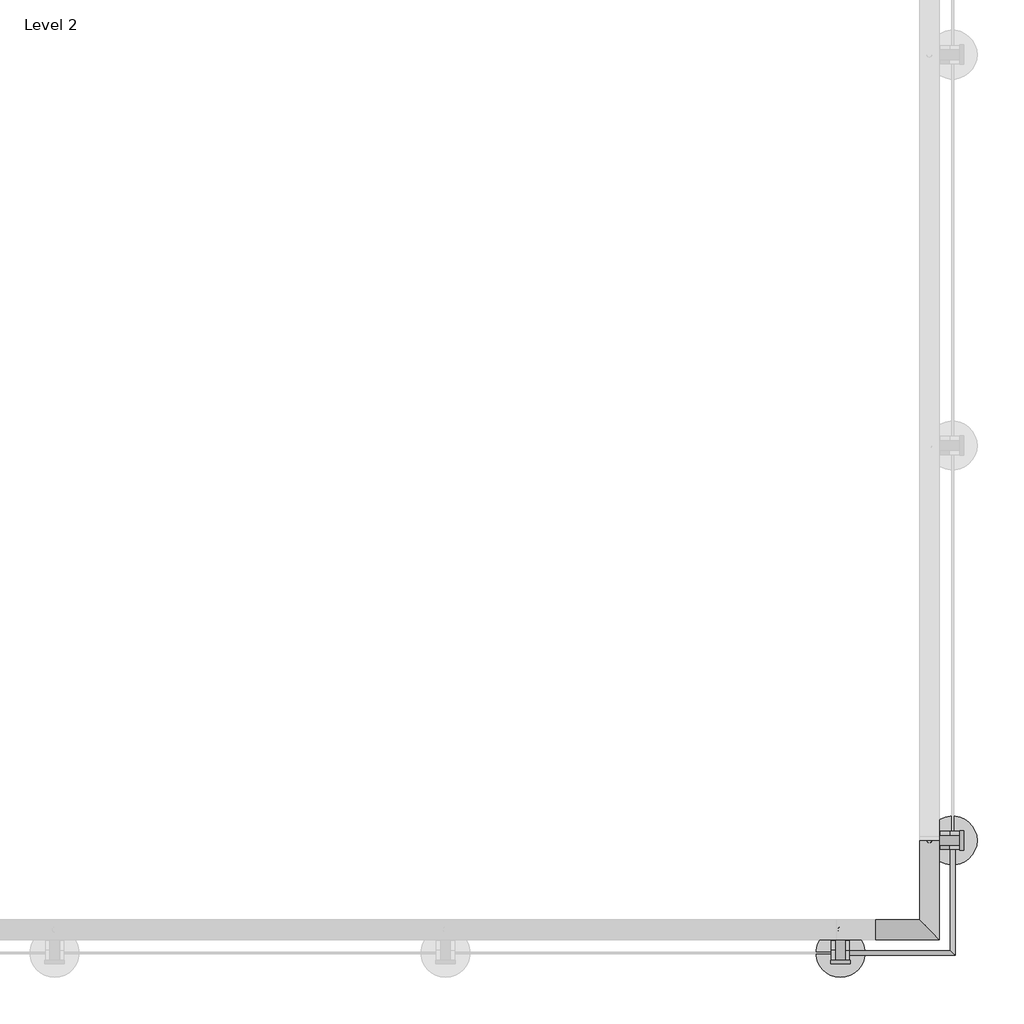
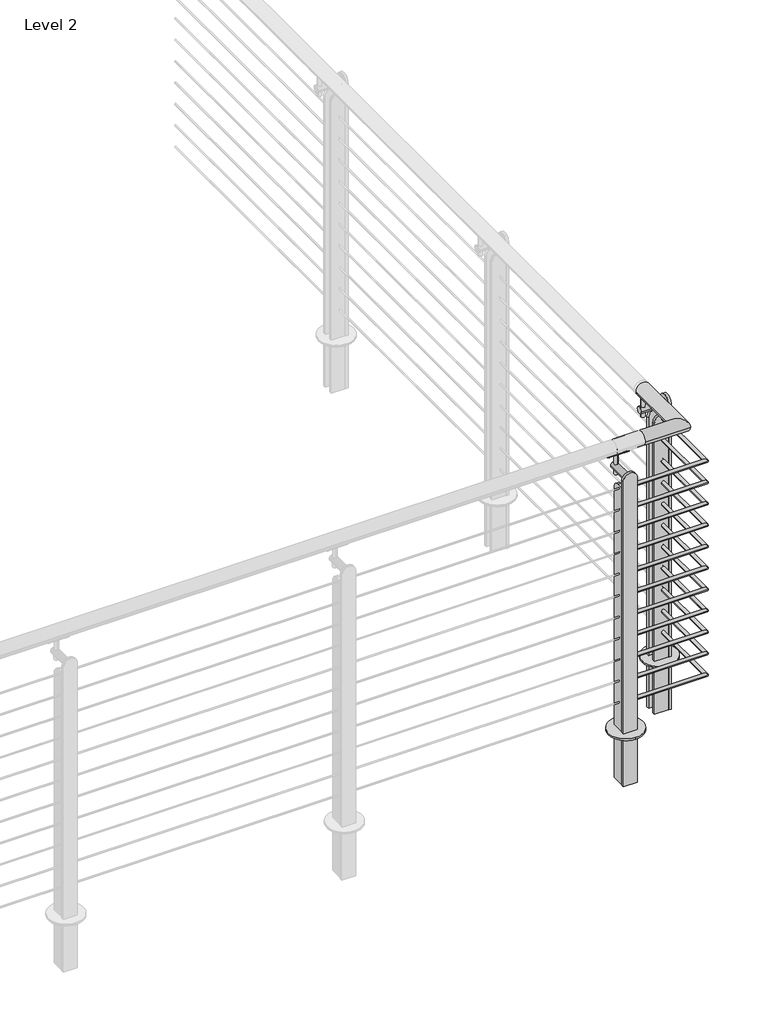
# One storey, part 8 of 12: 1 railing.
"""IFC4 building model written with IfcOpenShell, lengths in millimetres."""

from ifc_helpers import new_model, si_unit, point, frame, frame_2d, origin, place, context, project, spatial, polyline, circle_curve, ellipse_curve, trimmed, segment, composite_curve, outline, extrude, element, save
from ifc_brep_helpers import plane_surface, cylinder_surface, advanced_brep

model = new_model("IFC4")

# Units and contexts
model_context = context("Model", 3, world=origin())
ifc_project = project(units=[si_unit("LENGTHUNIT", "METRE", prefix="MILLI")], contexts=[model_context])

# Site, building, storey
site = spatial("IfcSite", under=ifc_project)
building = spatial("IfcBuilding", under=site)
storey = spatial("IfcBuildingStorey", under=building, Name="Level 2", Elevation=3048.0)

# Railing
placement = place(None, origin())
element("IfcRailing", 1, ObjectType="VIVA-TEE-Cable-Core Mount-Corner", at=placement, inside=storey, context=model_context, shape_type="SolidModel", body=[
    advanced_brep(
    [(-4030.6997163, -18186.2176165, 4102.1), (-4030.6997163, -18237.0176165, 4102.1), (-3773.5247163, -18237.0176165, 4102.1), (-3824.3247163, -18186.2176165, 4102.1), (-4041.1313409, -18237.0176165, 4102.1), (-4041.1313409, -18186.2176165, 4102.1), (-3773.5247163, -17979.8426165, 4102.1), (-3824.3247163, -17979.8426165, 4102.1)],
    [
        (0, 1, circle_curve(frame((-4030.6997163, -18211.6176165, 4102.1), z_axis=(1.0, 0.0, 0.0), x_axis=(0.0, 1.0, 0.0)), 25.4)),
        (1, 2),
        (2, 3, ellipse_curve(frame((-3798.9247163, -18211.6176165, 4102.1), z_axis=(-0.7071067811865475, -0.7071067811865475, 0.0), x_axis=(-0.7071067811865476, 0.7071067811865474, 0.0)), 35.9210245, 25.4)),
        (3, 0),
        (1, 0, circle_curve(frame((-4030.6997163, -18211.6176165, 4102.1), z_axis=(1.0, 0.0, 0.0), x_axis=(0.0, 1.0, 0.0)), 25.4)),
        (3, 2, ellipse_curve(frame((-3798.9247163, -18211.6176165, 4102.1), z_axis=(-0.7071067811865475, -0.7071067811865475, 0.0), x_axis=(-0.7071067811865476, 0.7071067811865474, 0.0)), 35.9210245, 25.4)),
        (4, 5, circle_curve(frame((-4041.1313409, -18211.6176165, 4102.1), z_axis=(-1.0, 0.0, 0.0), x_axis=(0.0, 1.0, 0.0)), 25.4)),
        (5, 4, circle_curve(frame((-4041.1313409, -18211.6176165, 4102.1), z_axis=(-1.0, 0.0, 0.0), x_axis=(0.0, 1.0, 0.0)), 25.4)),
        (4, 1),
        (0, 5),
        (6, 7, circle_curve(frame((-3798.9247163, -17979.8426165, 4102.1), z_axis=(0.0, 1.0, 0.0), x_axis=(-1.0, 0.0, 0.0)), 25.4)),
        (7, 6, circle_curve(frame((-3798.9247163, -17979.8426165, 4102.1), z_axis=(0.0, 1.0, 0.0), x_axis=(-1.0, 0.0, 0.0)), 25.4)),
        (2, 6),
        (7, 3),
    ],
    [
        cylinder_surface(frame((-4030.6997163, -18211.6176165, 4102.1), z_axis=(-1.0, 0.0, 0.0), x_axis=(0.0, 1.0, 0.0)), 25.4),
        plane_surface(frame((-4041.1313409, -18211.6176165, 4127.5), z_axis=(-1.0, 0.0, 0.0), x_axis=(0.0, 1.0, 0.0))),
        cylinder_surface(frame((-4041.1313409, -18211.6176165, 4102.1), z_axis=(-1.0, 0.0, 0.0), x_axis=(0.0, 1.0, 0.0)), 25.4),
        plane_surface(frame((-3798.9247163, -17979.8426165, 4127.5), z_axis=(0.0, 1.0, 0.0), x_axis=(0.0, 0.0, 1.0))),
        cylinder_surface(frame((-3798.9247163, -18211.6176165, 4102.1), z_axis=(0.0, -1.0, 0.0), x_axis=(-1.0, 0.0, 0.0)), 25.4),
    ],
    [
        (0, [[1, 2, 3, 4]]),
        (0, [[5, -4, 6, -2]]),
        (1, [[7, 8]]),
        (2, [[-7, 9, -1, 10]]),
        (2, [[-8, -10, -5, -9]]),
        (3, [[11, 12]]),
        (4, [[-3, 13, -12, 14]]),
        (4, [[-6, -14, -11, -13]]),
    ],
),
    advanced_brep(
    [(-4030.6997163, -18265.5926165, 3981.45), (-4030.6997163, -18278.2926165, 3981.45), (-3744.9497163, -18265.5926165, 3981.45), (-3732.2497163, -18278.2926165, 3981.45), (-3744.9497163, -17979.8426165, 3981.45), (-3732.2497163, -17979.8426165, 3981.45)],
    [
        (0, 1, circle_curve(frame((-4030.6997163, -18271.9426165, 3981.45), z_axis=(-1.0, 0.0, 0.0), x_axis=(0.0, -1.0, 0.0)), 6.35)),
        (1, 0, circle_curve(frame((-4030.6997163, -18271.9426165, 3981.45), z_axis=(-1.0, 0.0, 0.0), x_axis=(0.0, -1.0, 0.0)), 6.35)),
        (0, 2),
        (2, 3, ellipse_curve(frame((-3738.5997163, -18271.9426165, 3981.45), z_axis=(-0.7071067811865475, -0.7071067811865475, 0.0), x_axis=(-0.7071067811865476, 0.7071067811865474, 0.0)), 8.9802561, 6.35)),
        (3, 1),
        (3, 2, ellipse_curve(frame((-3738.5997163, -18271.9426165, 3981.45), z_axis=(-0.7071067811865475, -0.7071067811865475, 0.0), x_axis=(-0.7071067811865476, 0.7071067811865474, 0.0)), 8.9802561, 6.35)),
        (4, 5, circle_curve(frame((-3738.5997163, -17979.8426165, 3981.45), z_axis=(0.0, 1.0, 0.0), x_axis=(1.0, 0.0, 0.0)), 6.35)),
        (5, 4, circle_curve(frame((-3738.5997163, -17979.8426165, 3981.45), z_axis=(0.0, 1.0, 0.0), x_axis=(1.0, 0.0, 0.0)), 6.35)),
        (2, 4),
        (5, 3),
    ],
    [
        plane_surface(frame((-4030.6997163, -18271.9426165, 3987.8), z_axis=(-1.0, 0.0, 0.0), x_axis=(0.0, 1.0, 0.0))),
        cylinder_surface(frame((-4030.6997163, -18271.9426165, 3981.45), z_axis=(-1.0, 0.0, 0.0), x_axis=(0.0, -1.0, 0.0)), 6.35),
        plane_surface(frame((-3738.5997163, -17979.8426165, 3987.8), z_axis=(0.0, 1.0, 0.0), x_axis=(0.0, 0.0, 1.0))),
        cylinder_surface(frame((-3738.5997163, -18271.9426165, 3981.45), z_axis=(0.0, -1.0, 0.0), x_axis=(1.0, 0.0, 0.0)), 6.35),
    ],
    [
        (0, [[1, 2]]),
        (1, [[-1, 3, 4, 5]]),
        (1, [[-2, -5, 6, -3]]),
        (2, [[7, 8]]),
        (3, [[-4, 9, -8, 10]]),
        (3, [[-6, -10, -7, -9]]),
    ],
),
    advanced_brep(
    [(-4030.6997163, -18265.5926165, 3898.9), (-4030.6997163, -18278.2926165, 3898.9), (-3744.9497163, -18265.5926165, 3898.9), (-3732.2497163, -18278.2926165, 3898.9), (-3744.9497163, -17979.8426165, 3898.9), (-3732.2497163, -17979.8426165, 3898.9)],
    [
        (0, 1, circle_curve(frame((-4030.6997163, -18271.9426165, 3898.9), z_axis=(-1.0, 0.0, 0.0), x_axis=(0.0, -1.0, 0.0)), 6.35)),
        (1, 0, circle_curve(frame((-4030.6997163, -18271.9426165, 3898.9), z_axis=(-1.0, 0.0, 0.0), x_axis=(0.0, -1.0, 0.0)), 6.35)),
        (0, 2),
        (2, 3, ellipse_curve(frame((-3738.5997163, -18271.9426165, 3898.9), z_axis=(-0.7071067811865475, -0.7071067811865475, 0.0), x_axis=(-0.7071067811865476, 0.7071067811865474, 0.0)), 8.9802561, 6.35)),
        (3, 1),
        (3, 2, ellipse_curve(frame((-3738.5997163, -18271.9426165, 3898.9), z_axis=(-0.7071067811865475, -0.7071067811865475, 0.0), x_axis=(-0.7071067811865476, 0.7071067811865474, 0.0)), 8.9802561, 6.35)),
        (4, 5, circle_curve(frame((-3738.5997163, -17979.8426165, 3898.9), z_axis=(0.0, 1.0, 0.0), x_axis=(1.0, 0.0, 0.0)), 6.35)),
        (5, 4, circle_curve(frame((-3738.5997163, -17979.8426165, 3898.9), z_axis=(0.0, 1.0, 0.0), x_axis=(1.0, 0.0, 0.0)), 6.35)),
        (2, 4),
        (5, 3),
    ],
    [
        plane_surface(frame((-4030.6997163, -18271.9426165, 3905.25), z_axis=(-1.0, 0.0, 0.0), x_axis=(0.0, 1.0, 0.0))),
        cylinder_surface(frame((-4030.6997163, -18271.9426165, 3898.9), z_axis=(-1.0, 0.0, 0.0), x_axis=(0.0, -1.0, 0.0)), 6.35),
        plane_surface(frame((-3738.5997163, -17979.8426165, 3905.25), z_axis=(0.0, 1.0, 0.0), x_axis=(0.0, 0.0, 1.0))),
        cylinder_surface(frame((-3738.5997163, -18271.9426165, 3898.9), z_axis=(0.0, -1.0, 0.0), x_axis=(1.0, 0.0, 0.0)), 6.35),
    ],
    [
        (0, [[1, 2]]),
        (1, [[-1, 3, 4, 5]]),
        (1, [[-2, -5, 6, -3]]),
        (2, [[7, 8]]),
        (3, [[-4, 9, -8, 10]]),
        (3, [[-6, -10, -7, -9]]),
    ],
),
    advanced_brep(
    [(-4030.6997163, -18265.5926165, 3816.35), (-4030.6997163, -18278.2926165, 3816.35), (-3744.9497163, -18265.5926165, 3816.35), (-3732.2497163, -18278.2926165, 3816.35), (-3744.9497163, -17979.8426165, 3816.35), (-3732.2497163, -17979.8426165, 3816.35)],
    [
        (0, 1, circle_curve(frame((-4030.6997163, -18271.9426165, 3816.35), z_axis=(-1.0, 0.0, 0.0), x_axis=(0.0, -1.0, 0.0)), 6.35)),
        (1, 0, circle_curve(frame((-4030.6997163, -18271.9426165, 3816.35), z_axis=(-1.0, 0.0, 0.0), x_axis=(0.0, -1.0, 0.0)), 6.35)),
        (0, 2),
        (2, 3, ellipse_curve(frame((-3738.5997163, -18271.9426165, 3816.35), z_axis=(-0.7071067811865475, -0.7071067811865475, 0.0), x_axis=(-0.7071067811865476, 0.7071067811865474, 0.0)), 8.9802561, 6.35)),
        (3, 1),
        (3, 2, ellipse_curve(frame((-3738.5997163, -18271.9426165, 3816.35), z_axis=(-0.7071067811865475, -0.7071067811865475, 0.0), x_axis=(-0.7071067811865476, 0.7071067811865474, 0.0)), 8.9802561, 6.35)),
        (4, 5, circle_curve(frame((-3738.5997163, -17979.8426165, 3816.35), z_axis=(0.0, 1.0, 0.0), x_axis=(1.0, 0.0, 0.0)), 6.35)),
        (5, 4, circle_curve(frame((-3738.5997163, -17979.8426165, 3816.35), z_axis=(0.0, 1.0, 0.0), x_axis=(1.0, 0.0, 0.0)), 6.35)),
        (2, 4),
        (5, 3),
    ],
    [
        plane_surface(frame((-4030.6997163, -18271.9426165, 3822.7), z_axis=(-1.0, 0.0, 0.0), x_axis=(0.0, 1.0, 0.0))),
        cylinder_surface(frame((-4030.6997163, -18271.9426165, 3816.35), z_axis=(-1.0, 0.0, 0.0), x_axis=(0.0, -1.0, 0.0)), 6.35),
        plane_surface(frame((-3738.5997163, -17979.8426165, 3822.7), z_axis=(0.0, 1.0, 0.0), x_axis=(0.0, 0.0, 1.0))),
        cylinder_surface(frame((-3738.5997163, -18271.9426165, 3816.35), z_axis=(0.0, -1.0, 0.0), x_axis=(1.0, 0.0, 0.0)), 6.35),
    ],
    [
        (0, [[1, 2]]),
        (1, [[-1, 3, 4, 5]]),
        (1, [[-2, -5, 6, -3]]),
        (2, [[7, 8]]),
        (3, [[-4, 9, -8, 10]]),
        (3, [[-6, -10, -7, -9]]),
    ],
),
    advanced_brep(
    [(-4030.6997163, -18265.5926165, 3733.8), (-4030.6997163, -18278.2926165, 3733.8), (-3744.9497163, -18265.5926165, 3733.8), (-3732.2497163, -18278.2926165, 3733.8), (-3744.9497163, -17979.8426165, 3733.8), (-3732.2497163, -17979.8426165, 3733.8)],
    [
        (0, 1, circle_curve(frame((-4030.6997163, -18271.9426165, 3733.8), z_axis=(-1.0, 0.0, 0.0), x_axis=(0.0, -1.0, 0.0)), 6.35)),
        (1, 0, circle_curve(frame((-4030.6997163, -18271.9426165, 3733.8), z_axis=(-1.0, 0.0, 0.0), x_axis=(0.0, -1.0, 0.0)), 6.35)),
        (0, 2),
        (2, 3, ellipse_curve(frame((-3738.5997163, -18271.9426165, 3733.8), z_axis=(-0.7071067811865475, -0.7071067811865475, 0.0), x_axis=(-0.7071067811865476, 0.7071067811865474, 0.0)), 8.9802561, 6.35)),
        (3, 1),
        (3, 2, ellipse_curve(frame((-3738.5997163, -18271.9426165, 3733.8), z_axis=(-0.7071067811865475, -0.7071067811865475, 0.0), x_axis=(-0.7071067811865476, 0.7071067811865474, 0.0)), 8.9802561, 6.35)),
        (4, 5, circle_curve(frame((-3738.5997163, -17979.8426165, 3733.8), z_axis=(0.0, 1.0, 0.0), x_axis=(1.0, 0.0, 0.0)), 6.35)),
        (5, 4, circle_curve(frame((-3738.5997163, -17979.8426165, 3733.8), z_axis=(0.0, 1.0, 0.0), x_axis=(1.0, 0.0, 0.0)), 6.35)),
        (2, 4),
        (5, 3),
    ],
    [
        plane_surface(frame((-4030.6997163, -18271.9426165, 3740.15), z_axis=(-1.0, 0.0, 0.0), x_axis=(0.0, 1.0, 0.0))),
        cylinder_surface(frame((-4030.6997163, -18271.9426165, 3733.8), z_axis=(-1.0, 0.0, 0.0), x_axis=(0.0, -1.0, 0.0)), 6.35),
        plane_surface(frame((-3738.5997163, -17979.8426165, 3740.15), z_axis=(0.0, 1.0, 0.0), x_axis=(0.0, 0.0, 1.0))),
        cylinder_surface(frame((-3738.5997163, -18271.9426165, 3733.8), z_axis=(0.0, -1.0, 0.0), x_axis=(1.0, 0.0, 0.0)), 6.35),
    ],
    [
        (0, [[1, 2]]),
        (1, [[-1, 3, 4, 5]]),
        (1, [[-2, -5, 6, -3]]),
        (2, [[7, 8]]),
        (3, [[-4, 9, -8, 10]]),
        (3, [[-6, -10, -7, -9]]),
    ],
),
    advanced_brep(
    [(-4030.6997163, -18265.5926165, 3651.25), (-4030.6997163, -18278.2926165, 3651.25), (-3744.9497163, -18265.5926165, 3651.25), (-3732.2497163, -18278.2926165, 3651.25), (-3744.9497163, -17979.8426165, 3651.25), (-3732.2497163, -17979.8426165, 3651.25)],
    [
        (0, 1, circle_curve(frame((-4030.6997163, -18271.9426165, 3651.25), z_axis=(-1.0, 0.0, 0.0), x_axis=(0.0, -1.0, 0.0)), 6.35)),
        (1, 0, circle_curve(frame((-4030.6997163, -18271.9426165, 3651.25), z_axis=(-1.0, 0.0, 0.0), x_axis=(0.0, -1.0, 0.0)), 6.35)),
        (0, 2),
        (2, 3, ellipse_curve(frame((-3738.5997163, -18271.9426165, 3651.25), z_axis=(-0.7071067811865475, -0.7071067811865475, 0.0), x_axis=(-0.7071067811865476, 0.7071067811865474, 0.0)), 8.9802561, 6.35)),
        (3, 1),
        (3, 2, ellipse_curve(frame((-3738.5997163, -18271.9426165, 3651.25), z_axis=(-0.7071067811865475, -0.7071067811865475, 0.0), x_axis=(-0.7071067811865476, 0.7071067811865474, 0.0)), 8.9802561, 6.35)),
        (4, 5, circle_curve(frame((-3738.5997163, -17979.8426165, 3651.25), z_axis=(0.0, 1.0, 0.0), x_axis=(1.0, 0.0, 0.0)), 6.35)),
        (5, 4, circle_curve(frame((-3738.5997163, -17979.8426165, 3651.25), z_axis=(0.0, 1.0, 0.0), x_axis=(1.0, 0.0, 0.0)), 6.35)),
        (2, 4),
        (5, 3),
    ],
    [
        plane_surface(frame((-4030.6997163, -18271.9426165, 3657.6), z_axis=(-1.0, 0.0, 0.0), x_axis=(0.0, 1.0, 0.0))),
        cylinder_surface(frame((-4030.6997163, -18271.9426165, 3651.25), z_axis=(-1.0, 0.0, 0.0), x_axis=(0.0, -1.0, 0.0)), 6.35),
        plane_surface(frame((-3738.5997163, -17979.8426165, 3657.6), z_axis=(0.0, 1.0, 0.0), x_axis=(0.0, 0.0, 1.0))),
        cylinder_surface(frame((-3738.5997163, -18271.9426165, 3651.25), z_axis=(0.0, -1.0, 0.0), x_axis=(1.0, 0.0, 0.0)), 6.35),
    ],
    [
        (0, [[1, 2]]),
        (1, [[-1, 3, 4, 5]]),
        (1, [[-2, -5, 6, -3]]),
        (2, [[7, 8]]),
        (3, [[-4, 9, -8, 10]]),
        (3, [[-6, -10, -7, -9]]),
    ],
),
    advanced_brep(
    [(-4030.6997163, -18265.5926165, 3568.7), (-4030.6997163, -18278.2926165, 3568.7), (-3744.9497163, -18265.5926165, 3568.7), (-3732.2497163, -18278.2926165, 3568.7), (-3744.9497163, -17979.8426165, 3568.7), (-3732.2497163, -17979.8426165, 3568.7)],
    [
        (0, 1, circle_curve(frame((-4030.6997163, -18271.9426165, 3568.7), z_axis=(-1.0, 0.0, 0.0), x_axis=(0.0, -1.0, 0.0)), 6.35)),
        (1, 0, circle_curve(frame((-4030.6997163, -18271.9426165, 3568.7), z_axis=(-1.0, 0.0, 0.0), x_axis=(0.0, -1.0, 0.0)), 6.35)),
        (0, 2),
        (2, 3, ellipse_curve(frame((-3738.5997163, -18271.9426165, 3568.7), z_axis=(-0.7071067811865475, -0.7071067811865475, 0.0), x_axis=(-0.7071067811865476, 0.7071067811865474, 0.0)), 8.9802561, 6.35)),
        (3, 1),
        (3, 2, ellipse_curve(frame((-3738.5997163, -18271.9426165, 3568.7), z_axis=(-0.7071067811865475, -0.7071067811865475, 0.0), x_axis=(-0.7071067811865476, 0.7071067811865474, 0.0)), 8.9802561, 6.35)),
        (4, 5, circle_curve(frame((-3738.5997163, -17979.8426165, 3568.7), z_axis=(0.0, 1.0, 0.0), x_axis=(1.0, 0.0, 0.0)), 6.35)),
        (5, 4, circle_curve(frame((-3738.5997163, -17979.8426165, 3568.7), z_axis=(0.0, 1.0, 0.0), x_axis=(1.0, 0.0, 0.0)), 6.35)),
        (2, 4),
        (5, 3),
    ],
    [
        plane_surface(frame((-4030.6997163, -18271.9426165, 3575.05), z_axis=(-1.0, 0.0, 0.0), x_axis=(0.0, 1.0, 0.0))),
        cylinder_surface(frame((-4030.6997163, -18271.9426165, 3568.7), z_axis=(-1.0, 0.0, 0.0), x_axis=(0.0, -1.0, 0.0)), 6.35),
        plane_surface(frame((-3738.5997163, -17979.8426165, 3575.05), z_axis=(0.0, 1.0, 0.0), x_axis=(0.0, 0.0, 1.0))),
        cylinder_surface(frame((-3738.5997163, -18271.9426165, 3568.7), z_axis=(0.0, -1.0, 0.0), x_axis=(1.0, 0.0, 0.0)), 6.35),
    ],
    [
        (0, [[1, 2]]),
        (1, [[-1, 3, 4, 5]]),
        (1, [[-2, -5, 6, -3]]),
        (2, [[7, 8]]),
        (3, [[-4, 9, -8, 10]]),
        (3, [[-6, -10, -7, -9]]),
    ],
),
    advanced_brep(
    [(-4030.6997163, -18265.5926165, 3486.15), (-4030.6997163, -18278.2926165, 3486.15), (-3744.9497163, -18265.5926165, 3486.15), (-3732.2497163, -18278.2926165, 3486.15), (-3744.9497163, -17979.8426165, 3486.15), (-3732.2497163, -17979.8426165, 3486.15)],
    [
        (0, 1, circle_curve(frame((-4030.6997163, -18271.9426165, 3486.15), z_axis=(-1.0, 0.0, 0.0), x_axis=(0.0, -1.0, 0.0)), 6.35)),
        (1, 0, circle_curve(frame((-4030.6997163, -18271.9426165, 3486.15), z_axis=(-1.0, 0.0, 0.0), x_axis=(0.0, -1.0, 0.0)), 6.35)),
        (0, 2),
        (2, 3, ellipse_curve(frame((-3738.5997163, -18271.9426165, 3486.15), z_axis=(-0.7071067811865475, -0.7071067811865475, 0.0), x_axis=(-0.7071067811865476, 0.7071067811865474, 0.0)), 8.9802561, 6.35)),
        (3, 1),
        (3, 2, ellipse_curve(frame((-3738.5997163, -18271.9426165, 3486.15), z_axis=(-0.7071067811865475, -0.7071067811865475, 0.0), x_axis=(-0.7071067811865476, 0.7071067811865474, 0.0)), 8.9802561, 6.35)),
        (4, 5, circle_curve(frame((-3738.5997163, -17979.8426165, 3486.15), z_axis=(0.0, 1.0, 0.0), x_axis=(1.0, 0.0, 0.0)), 6.35)),
        (5, 4, circle_curve(frame((-3738.5997163, -17979.8426165, 3486.15), z_axis=(0.0, 1.0, 0.0), x_axis=(1.0, 0.0, 0.0)), 6.35)),
        (2, 4),
        (5, 3),
    ],
    [
        plane_surface(frame((-4030.6997163, -18271.9426165, 3492.5), z_axis=(-1.0, 0.0, 0.0), x_axis=(0.0, 1.0, 0.0))),
        cylinder_surface(frame((-4030.6997163, -18271.9426165, 3486.15), z_axis=(-1.0, 0.0, 0.0), x_axis=(0.0, -1.0, 0.0)), 6.35),
        plane_surface(frame((-3738.5997163, -17979.8426165, 3492.5), z_axis=(0.0, 1.0, 0.0), x_axis=(0.0, 0.0, 1.0))),
        cylinder_surface(frame((-3738.5997163, -18271.9426165, 3486.15), z_axis=(0.0, -1.0, 0.0), x_axis=(1.0, 0.0, 0.0)), 6.35),
    ],
    [
        (0, [[1, 2]]),
        (1, [[-1, 3, 4, 5]]),
        (1, [[-2, -5, 6, -3]]),
        (2, [[7, 8]]),
        (3, [[-4, 9, -8, 10]]),
        (3, [[-6, -10, -7, -9]]),
    ],
),
    advanced_brep(
    [(-4030.6997163, -18265.5926165, 3403.6), (-4030.6997163, -18278.2926165, 3403.6), (-3744.9497163, -18265.5926165, 3403.6), (-3732.2497163, -18278.2926165, 3403.6), (-3744.9497163, -17979.8426165, 3403.6), (-3732.2497163, -17979.8426165, 3403.6)],
    [
        (0, 1, circle_curve(frame((-4030.6997163, -18271.9426165, 3403.6), z_axis=(-1.0, 0.0, 0.0), x_axis=(0.0, -1.0, 0.0)), 6.35)),
        (1, 0, circle_curve(frame((-4030.6997163, -18271.9426165, 3403.6), z_axis=(-1.0, 0.0, 0.0), x_axis=(0.0, -1.0, 0.0)), 6.35)),
        (0, 2),
        (2, 3, ellipse_curve(frame((-3738.5997163, -18271.9426165, 3403.6), z_axis=(-0.7071067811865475, -0.7071067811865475, 0.0), x_axis=(-0.7071067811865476, 0.7071067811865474, 0.0)), 8.9802561, 6.35)),
        (3, 1),
        (3, 2, ellipse_curve(frame((-3738.5997163, -18271.9426165, 3403.6), z_axis=(-0.7071067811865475, -0.7071067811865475, 0.0), x_axis=(-0.7071067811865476, 0.7071067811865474, 0.0)), 8.9802561, 6.35)),
        (4, 5, circle_curve(frame((-3738.5997163, -17979.8426165, 3403.6), z_axis=(0.0, 1.0, 0.0), x_axis=(1.0, 0.0, 0.0)), 6.35)),
        (5, 4, circle_curve(frame((-3738.5997163, -17979.8426165, 3403.6), z_axis=(0.0, 1.0, 0.0), x_axis=(1.0, 0.0, 0.0)), 6.35)),
        (2, 4),
        (5, 3),
    ],
    [
        plane_surface(frame((-4030.6997163, -18271.9426165, 3409.95), z_axis=(-1.0, 0.0, 0.0), x_axis=(0.0, 1.0, 0.0))),
        cylinder_surface(frame((-4030.6997163, -18271.9426165, 3403.6), z_axis=(-1.0, 0.0, 0.0), x_axis=(0.0, -1.0, 0.0)), 6.35),
        plane_surface(frame((-3738.5997163, -17979.8426165, 3409.95), z_axis=(0.0, 1.0, 0.0), x_axis=(0.0, 0.0, 1.0))),
        cylinder_surface(frame((-3738.5997163, -18271.9426165, 3403.6), z_axis=(0.0, -1.0, 0.0), x_axis=(1.0, 0.0, 0.0)), 6.35),
    ],
    [
        (0, [[1, 2]]),
        (1, [[-1, 3, 4, 5]]),
        (1, [[-2, -5, 6, -3]]),
        (2, [[7, 8]]),
        (3, [[-4, 9, -8, 10]]),
        (3, [[-6, -10, -7, -9]]),
    ],
),
    advanced_brep(
    [(-4030.6997163, -18265.5926165, 3321.05), (-4030.6997163, -18278.2926165, 3321.05), (-3744.9497163, -18265.5926165, 3321.05), (-3732.2497163, -18278.2926165, 3321.05), (-3744.9497163, -17979.8426165, 3321.05), (-3732.2497163, -17979.8426165, 3321.05)],
    [
        (0, 1, circle_curve(frame((-4030.6997163, -18271.9426165, 3321.05), z_axis=(-1.0, 0.0, 0.0), x_axis=(0.0, -1.0, 0.0)), 6.35)),
        (1, 0, circle_curve(frame((-4030.6997163, -18271.9426165, 3321.05), z_axis=(-1.0, 0.0, 0.0), x_axis=(0.0, -1.0, 0.0)), 6.35)),
        (0, 2),
        (2, 3, ellipse_curve(frame((-3738.5997163, -18271.9426165, 3321.05), z_axis=(-0.7071067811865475, -0.7071067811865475, 0.0), x_axis=(-0.7071067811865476, 0.7071067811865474, 0.0)), 8.9802561, 6.35)),
        (3, 1),
        (3, 2, ellipse_curve(frame((-3738.5997163, -18271.9426165, 3321.05), z_axis=(-0.7071067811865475, -0.7071067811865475, 0.0), x_axis=(-0.7071067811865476, 0.7071067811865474, 0.0)), 8.9802561, 6.35)),
        (4, 5, circle_curve(frame((-3738.5997163, -17979.8426165, 3321.05), z_axis=(0.0, 1.0, 0.0), x_axis=(1.0, 0.0, 0.0)), 6.35)),
        (5, 4, circle_curve(frame((-3738.5997163, -17979.8426165, 3321.05), z_axis=(0.0, 1.0, 0.0), x_axis=(1.0, 0.0, 0.0)), 6.35)),
        (2, 4),
        (5, 3),
    ],
    [
        plane_surface(frame((-4030.6997163, -18271.9426165, 3327.4), z_axis=(-1.0, 0.0, 0.0), x_axis=(0.0, 1.0, 0.0))),
        cylinder_surface(frame((-4030.6997163, -18271.9426165, 3321.05), z_axis=(-1.0, 0.0, 0.0), x_axis=(0.0, -1.0, 0.0)), 6.35),
        plane_surface(frame((-3738.5997163, -17979.8426165, 3327.4), z_axis=(0.0, 1.0, 0.0), x_axis=(0.0, 0.0, 1.0))),
        cylinder_surface(frame((-3738.5997163, -18271.9426165, 3321.05), z_axis=(0.0, -1.0, 0.0), x_axis=(1.0, 0.0, 0.0)), 6.35),
    ],
    [
        (0, [[1, 2]]),
        (1, [[-1, 3, 4, 5]]),
        (1, [[-2, -5, 6, -3]]),
        (2, [[7, 8]]),
        (3, [[-4, 9, -8, 10]]),
        (3, [[-6, -10, -7, -9]]),
    ],
),
    advanced_brep(
    [(-4030.6997163, -18265.5926165, 3238.5), (-4030.6997163, -18278.2926165, 3238.5), (-3744.9497163, -18265.5926165, 3238.5), (-3732.2497163, -18278.2926165, 3238.5), (-3744.9497163, -17979.8426165, 3238.5), (-3732.2497163, -17979.8426165, 3238.5)],
    [
        (0, 1, circle_curve(frame((-4030.6997163, -18271.9426165, 3238.5), z_axis=(-1.0, 0.0, 0.0), x_axis=(0.0, -1.0, 0.0)), 6.35)),
        (1, 0, circle_curve(frame((-4030.6997163, -18271.9426165, 3238.5), z_axis=(-1.0, 0.0, 0.0), x_axis=(0.0, -1.0, 0.0)), 6.35)),
        (0, 2),
        (2, 3, ellipse_curve(frame((-3738.5997163, -18271.9426165, 3238.5), z_axis=(-0.7071067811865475, -0.7071067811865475, 0.0), x_axis=(-0.7071067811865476, 0.7071067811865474, 0.0)), 8.9802561, 6.35)),
        (3, 1),
        (3, 2, ellipse_curve(frame((-3738.5997163, -18271.9426165, 3238.5), z_axis=(-0.7071067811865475, -0.7071067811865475, 0.0), x_axis=(-0.7071067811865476, 0.7071067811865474, 0.0)), 8.9802561, 6.35)),
        (4, 5, circle_curve(frame((-3738.5997163, -17979.8426165, 3238.5), z_axis=(0.0, 1.0, 0.0), x_axis=(1.0, 0.0, 0.0)), 6.35)),
        (5, 4, circle_curve(frame((-3738.5997163, -17979.8426165, 3238.5), z_axis=(0.0, 1.0, 0.0), x_axis=(1.0, 0.0, 0.0)), 6.35)),
        (2, 4),
        (5, 3),
    ],
    [
        plane_surface(frame((-4030.6997163, -18271.9426165, 3244.85), z_axis=(-1.0, 0.0, 0.0), x_axis=(0.0, 1.0, 0.0))),
        cylinder_surface(frame((-4030.6997163, -18271.9426165, 3238.5), z_axis=(-1.0, 0.0, 0.0), x_axis=(0.0, -1.0, 0.0)), 6.35),
        plane_surface(frame((-3738.5997163, -17979.8426165, 3244.85), z_axis=(0.0, 1.0, 0.0), x_axis=(0.0, 0.0, 1.0))),
        cylinder_surface(frame((-3738.5997163, -18271.9426165, 3238.5), z_axis=(0.0, -1.0, 0.0), x_axis=(1.0, 0.0, 0.0)), 6.35),
    ],
    [
        (0, [[1, 2]]),
        (1, [[-1, 3, 4, 5]]),
        (1, [[-2, -5, 6, -3]]),
        (2, [[7, 8]]),
        (3, [[-4, 9, -8, 10]]),
        (3, [[-6, -10, -7, -9]]),
    ],
),
    advanced_brep(
    [(-4030.6997163, -18265.5926165, 3155.95), (-4030.6997163, -18278.2926165, 3155.95), (-3744.9497163, -18265.5926165, 3155.95), (-3732.2497163, -18278.2926165, 3155.95), (-3744.9497163, -17979.8426165, 3155.95), (-3732.2497163, -17979.8426165, 3155.95)],
    [
        (0, 1, circle_curve(frame((-4030.6997163, -18271.9426165, 3155.95), z_axis=(-1.0, 0.0, 0.0), x_axis=(0.0, -1.0, 0.0)), 6.35)),
        (1, 0, circle_curve(frame((-4030.6997163, -18271.9426165, 3155.95), z_axis=(-1.0, 0.0, 0.0), x_axis=(0.0, -1.0, 0.0)), 6.35)),
        (0, 2),
        (2, 3, ellipse_curve(frame((-3738.5997163, -18271.9426165, 3155.95), z_axis=(-0.7071067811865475, -0.7071067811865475, 0.0), x_axis=(-0.7071067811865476, 0.7071067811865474, 0.0)), 8.9802561, 6.35)),
        (3, 1),
        (3, 2, ellipse_curve(frame((-3738.5997163, -18271.9426165, 3155.95), z_axis=(-0.7071067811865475, -0.7071067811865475, 0.0), x_axis=(-0.7071067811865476, 0.7071067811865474, 0.0)), 8.9802561, 6.35)),
        (4, 5, circle_curve(frame((-3738.5997163, -17979.8426165, 3155.95), z_axis=(0.0, 1.0, 0.0), x_axis=(1.0, 0.0, 0.0)), 6.35)),
        (5, 4, circle_curve(frame((-3738.5997163, -17979.8426165, 3155.95), z_axis=(0.0, 1.0, 0.0), x_axis=(1.0, 0.0, 0.0)), 6.35)),
        (2, 4),
        (5, 3),
    ],
    [
        plane_surface(frame((-4030.6997163, -18271.9426165, 3162.3), z_axis=(-1.0, 0.0, 0.0), x_axis=(0.0, 1.0, 0.0))),
        cylinder_surface(frame((-4030.6997163, -18271.9426165, 3155.95), z_axis=(-1.0, 0.0, 0.0), x_axis=(0.0, -1.0, 0.0)), 6.35),
        plane_surface(frame((-3738.5997163, -17979.8426165, 3162.3), z_axis=(0.0, 1.0, 0.0), x_axis=(0.0, 0.0, 1.0))),
        cylinder_surface(frame((-3738.5997163, -18271.9426165, 3155.95), z_axis=(0.0, -1.0, 0.0), x_axis=(1.0, 0.0, 0.0)), 6.35),
    ],
    [
        (0, [[1, 2]]),
        (1, [[-1, 3, 4, 5]]),
        (1, [[-2, -5, 6, -3]]),
        (2, [[7, 8]]),
        (3, [[-4, 9, -8, 10]]),
        (3, [[-6, -10, -7, -9]]),
    ],
),
    extrude(outline(composite_curve([segment(trimmed(circle_curve(frame_2d((0.0, 7.0)), 7.0), [point((0.0, 14.0))], [point((0.0, 0.0))], False, "CARTESIAN"), True, "CONTINUOUS"), segment(trimmed(circle_curve(frame_2d((0.0, 7.0)), 7.0), [point((0.0, 0.0))], [point((0.0, 14.0))], False, "CARTESIAN"), True, "CONTINUOUS")], self_intersect=False)), frame((-3792.2148625, -17979.7689066, 3997.1832524), z_axis=(0.0, 0.004253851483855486, 0.9999909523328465), x_axis=(0.0, 0.9999909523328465, -0.004253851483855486)), (0.0, 0.0, 1.0), 75.97),
    extrude(outline(composite_curve([segment(trimmed(circle_curve(frame_2d((4095.2025651, -3799.3562666)), 19.05), [point((4081.7916463, -3785.8266783))], [point((4081.7916463, -3812.8858548))], True, "CARTESIAN"), True, "CONTINUOUS"), segment(polyline([(4081.7916463, -3812.8858548), (4080.7742593, -3813.9122444)]), True, "CONTINUOUS"), segment(trimmed(circle_curve(frame_2d((4079.7089374, -3812.8562666)), 1.5), [point((4080.7742593, -3813.9122444))], [point((4078.5780156, -3813.841668))], False, "CARTESIAN"), True, "CONTINUOUS"), segment(trimmed(circle_curve(frame_2d((4095.2025651, -3799.3562666)), 22.05), [point((4078.5780156, -3813.841668))], [point((4078.5780156, -3784.8708651))], False, "CARTESIAN"), True, "CONTINUOUS"), segment(trimmed(circle_curve(frame_2d((4079.7089374, -3785.8562666)), 1.5), [point((4078.5780156, -3784.8708651))], [point((4080.7742593, -3784.8002887))], False, "CARTESIAN"), True, "CONTINUOUS"), segment(polyline([(4080.7742593, -3784.8002887), (4081.7916463, -3785.8266783)]), True, "CONTINUOUS")], self_intersect=False)), frame((0.0, -18015.3073808, 0.0), z_axis=(0.0, 1.0, 0.0), x_axis=(0.0, 0.0, 1.0)), (0.0, 0.0, 1.0), 74.5229187),
    extrude(outline(composite_curve([segment(trimmed(circle_curve(frame_2d((-17979.5645762, 4024.1259188)), 12.5), [point((-17992.0645762, 4024.1259188))], [point((-17967.0645762, 4024.1259188))], False, "CARTESIAN"), True, "CONTINUOUS"), segment(trimmed(circle_curve(frame_2d((-17979.5645762, 4024.1259188)), 12.5), [point((-17967.0645762, 4024.1259188))], [point((-17992.0645762, 4024.1259188))], False, "CARTESIAN"), True, "CONTINUOUS")], self_intersect=False)), frame((-3811.8718766, 0.0, 0.0), z_axis=(1.0, 0.0, 0.0), x_axis=(0.0, 1.0, 0.0)), (0.0, 0.0, 1.0), 92.423),
    extrude(outline(composite_curve([segment(trimmed(circle_curve(frame_2d((-3738.5997163, -17979.4457415)), 63.5), [point((-3675.0997163, -17979.4457415))], [point((-3802.0997163, -17979.4457415))], False, "CARTESIAN"), True, "CONTINUOUS"), segment(trimmed(circle_curve(frame_2d((-3738.5997163, -17979.4457415)), 63.5), [point((-3802.0997163, -17979.4457415))], [point((-3675.0997163, -17979.4457415))], False, "CARTESIAN"), True, "CONTINUOUS")], self_intersect=False)), frame((0.0, 0.0, 3048.0), z_axis=(0.0, 0.0, 1.0), x_axis=(1.0, 0.0, 0.0)), (0.0, 0.0, 1.0), 6.35),
    extrude(outline(composite_curve([segment(trimmed(circle_curve(frame_2d((3972.2425, -3745.6151679)), 24.765), [point((3997.0075, -3745.6151679))], [point((3972.2425, -3770.3801679))], False, "CARTESIAN"), True, "CONTINUOUS"), segment(polyline([(3972.2425, -3770.3801679), (2851.15, -3770.3801679), (2851.15, -3719.5497163), (3997.0075, -3719.5497163), (3997.0075, -3745.6151679)]), True, "CONTINUOUS")], self_intersect=False)), frame((0.0, -17965.442242, 0.0), z_axis=(0.0, 1.0, 0.0), x_axis=(0.0, 0.0, 1.0)), (0.0, 0.0, 1.0), 9.525),
    extrude(outline(composite_curve([segment(polyline([(-17954.0457415, 2851.15), (-18004.8457415, 2851.15), (-18004.8457415, 4027.17)]), True, "CONTINUOUS"), segment(trimmed(circle_curve(frame_2d((-17979.4457415, 4027.17)), 25.4), [point((-18004.8457415, 4027.17))], [point((-17954.0457415, 4027.17))], False, "CARTESIAN"), True, "CONTINUOUS"), segment(polyline([(-17954.0457415, 4027.17), (-17954.0457415, 2851.15)]), True, "CONTINUOUS")], self_intersect=False)), frame((-3719.5497163, 0.0, 0.0), z_axis=(1.0, 0.0, 0.0), x_axis=(0.0, 1.0, 0.0)), (0.0, 0.0, 1.0), 9.525),
    extrude(outline(composite_curve([segment(trimmed(circle_curve(frame_2d((3972.2425, -3745.6151679)), 24.765), [point((3997.0075, -3745.6151679))], [point((3972.2425, -3770.3801679))], False, "CARTESIAN"), True, "CONTINUOUS"), segment(polyline([(3972.2425, -3770.3801679), (2851.15, -3770.3801679), (2851.15, -3719.5497163), (3997.0075, -3719.5497163), (3997.0075, -3745.6151679)]), True, "CONTINUOUS")], self_intersect=False)), frame((0.0, -18002.9742411, 0.0), z_axis=(0.0, 1.0, 0.0), x_axis=(0.0, 0.0, 1.0)), (0.0, 0.0, 1.0), 9.525),
    extrude(outline(composite_curve([segment(trimmed(circle_curve(frame_2d((0.0, 7.0)), 7.0), [point((0.0, 14.0))], [point((0.0, 0.0))], False, "CARTESIAN"), True, "CONTINUOUS"), segment(trimmed(circle_curve(frame_2d((0.0, 7.0)), 7.0), [point((0.0, 0.0))], [point((0.0, 14.0))], False, "CARTESIAN"), True, "CONTINUOUS")], self_intersect=False)), frame((-4030.6260064, -18218.3274703, 3997.1832524), z_axis=(0.004253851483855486, 0.0, 0.9999909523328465), x_axis=(0.9999909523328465, 0.0, -0.004253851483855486)), (0.0, 0.0, 1.0), 75.97),
    extrude(outline(composite_curve([segment(trimmed(circle_curve(frame_2d((-18211.1860663, 4095.2025651)), 19.05), [point((-18224.7156545, 4081.7916463))], [point((-18197.6564781, 4081.7916463))], True, "CARTESIAN"), True, "CONTINUOUS"), segment(polyline([(-18197.6564781, 4081.7916463), (-18196.6300885, 4080.7742593)]), True, "CONTINUOUS"), segment(trimmed(circle_curve(frame_2d((-18197.6860663, 4079.7089374)), 1.5), [point((-18196.6300885, 4080.7742593))], [point((-18196.7006648, 4078.5780156))], False, "CARTESIAN"), True, "CONTINUOUS"), segment(trimmed(circle_curve(frame_2d((-18211.1860663, 4095.2025651)), 22.05), [point((-18196.7006648, 4078.5780156))], [point((-18225.6714678, 4078.5780156))], False, "CARTESIAN"), True, "CONTINUOUS"), segment(trimmed(circle_curve(frame_2d((-18224.6860663, 4079.7089374)), 1.5), [point((-18225.6714678, 4078.5780156))], [point((-18225.7420442, 4080.7742593))], False, "CARTESIAN"), True, "CONTINUOUS"), segment(polyline([(-18225.7420442, 4080.7742593), (-18224.7156545, 4081.7916463)]), True, "CONTINUOUS")], self_intersect=False)), frame((-4066.1644806, 0.0, 0.0), z_axis=(1.0, 0.0, 0.0), x_axis=(0.0, 1.0, 0.0)), (0.0, 0.0, 1.0), 74.5229187),
    extrude(outline(composite_curve([segment(trimmed(circle_curve(frame_2d((4024.1259188, -4030.421676)), 12.5), [point((4024.1259188, -4042.921676))], [point((4024.1259188, -4017.921676))], False, "CARTESIAN"), True, "CONTINUOUS"), segment(trimmed(circle_curve(frame_2d((4024.1259188, -4030.421676)), 12.5), [point((4024.1259188, -4017.921676))], [point((4024.1259188, -4042.921676))], False, "CARTESIAN"), True, "CONTINUOUS")], self_intersect=False)), frame((0.0, -18291.0934563, 0.0), z_axis=(0.0, 1.0, 0.0), x_axis=(0.0, 0.0, 1.0)), (0.0, 0.0, 1.0), 92.423),
    extrude(outline(composite_curve([segment(trimmed(circle_curve(frame_2d((-4030.3028413, -18271.9426165)), 63.5), [point((-4030.3028413, -18335.4426165))], [point((-4030.3028413, -18208.4426165))], False, "CARTESIAN"), True, "CONTINUOUS"), segment(trimmed(circle_curve(frame_2d((-4030.3028413, -18271.9426165)), 63.5), [point((-4030.3028413, -18208.4426165))], [point((-4030.3028413, -18335.4426165))], False, "CARTESIAN"), True, "CONTINUOUS")], self_intersect=False)), frame((0.0, 0.0, 3048.0), z_axis=(0.0, 0.0, 1.0), x_axis=(1.0, 0.0, 0.0)), (0.0, 0.0, 1.0), 6.35),
    extrude(outline(composite_curve([segment(trimmed(circle_curve(frame_2d((-18264.927165, 3972.2425)), 24.765), [point((-18264.927165, 3997.0075))], [point((-18240.162165, 3972.2425))], False, "CARTESIAN"), True, "CONTINUOUS"), segment(polyline([(-18240.162165, 3972.2425), (-18240.162165, 2851.15), (-18290.9926165, 2851.15), (-18290.9926165, 3997.0075), (-18264.927165, 3997.0075)]), True, "CONTINUOUS")], self_intersect=False)), frame((-4016.2993417, 0.0, 0.0), z_axis=(1.0, 0.0, 0.0), x_axis=(0.0, 1.0, 0.0)), (0.0, 0.0, 1.0), 9.525),
    extrude(outline(composite_curve([segment(polyline([(2851.15, -4004.9028413), (4027.17, -4004.9028413)]), True, "CONTINUOUS"), segment(trimmed(circle_curve(frame_2d((4027.17, -4030.3028413)), 25.4), [point((4027.17, -4004.9028413))], [point((4027.17, -4055.7028413))], False, "CARTESIAN"), True, "CONTINUOUS"), segment(polyline([(4027.17, -4055.7028413), (2851.15, -4055.7028413), (2851.15, -4004.9028413)]), True, "CONTINUOUS")], self_intersect=False)), frame((0.0, -18300.5176165, 0.0), z_axis=(0.0, 1.0, 0.0), x_axis=(0.0, 0.0, 1.0)), (0.0, 0.0, 1.0), 9.525),
    extrude(outline(composite_curve([segment(trimmed(circle_curve(frame_2d((-18264.927165, 3972.2425)), 24.765), [point((-18264.927165, 3997.0075))], [point((-18240.162165, 3972.2425))], False, "CARTESIAN"), True, "CONTINUOUS"), segment(polyline([(-18240.162165, 3972.2425), (-18240.162165, 2851.15), (-18290.9926165, 2851.15), (-18290.9926165, 3997.0075), (-18264.927165, 3997.0075)]), True, "CONTINUOUS")], self_intersect=False)), frame((-4053.8313409, 0.0, 0.0), z_axis=(1.0, 0.0, 0.0), x_axis=(0.0, 1.0, 0.0)), (0.0, 0.0, 1.0), 9.525),
])

save(model, "model.ifc")
